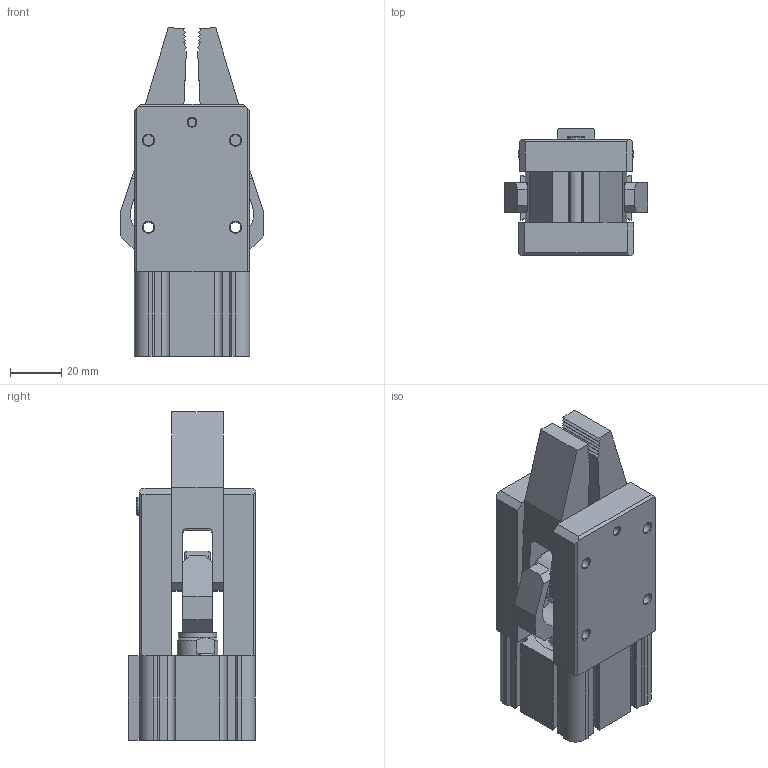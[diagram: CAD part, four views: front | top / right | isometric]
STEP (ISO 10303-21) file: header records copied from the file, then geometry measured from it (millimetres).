
FILE_DESCRIPTION(/* description */ ('Gripper With Jaws '),/* implementation_level */ '2;1');
FILE_NAME(/* name */ 'GS-32.STEP',/* time_stamp */ '2026-02-10T14:43:21-05:00',/* author */ ('Design2'),/* organization */ ('CCS Design LLC'),/* preprocessor_version */ 'ST-DEVELOPER v20',/* originating_system */ 'Autodesk Inventor 2025',/* authorisation */ '');
FILE_SCHEMA (('AUTOMOTIVE_DESIGN { 1 0 10303 214 3 1 1 }'));
Products named in the file (19): GS-32; CYL-32-10; M-CYL-32-10-B; M-CYL-32-10-S; M-CYL-32-C; M-GS-32-BP; M-GS-32-F; M-GS-32-TP; M-GS-32-J-S; ASME B18.21.2M - 8; ANSI B18.3.6M - M8x1.25 x 20; ISO 8734 - 8 x 35 - A; ASME B18.21.2M - 4; ANSI B18.3.1M - M4x0.7 x 40; Aluminum Spacer 6mm x 20mm; ASME B18.21.2M - 5; ANSI B18.3.1M - M5x0.8 x 40; ISO 8752 - 6 x 18  A; ANSI/AFBMA 16.1 - 6 x 19 x 12
Assembly tree (28 placements, depth 3):
  GS-32
    CYL-32-10
      M-CYL-32-10-B
      M-CYL-32-10-S
      M-CYL-32-C
    M-GS-32-BP
    M-GS-32-F
    M-GS-32-J-S  x2
    M-GS-32-TP
    ASME B18.21.2M - 8
    ANSI B18.3.6M - M8x1.25 x 20
    ISO 8734 - 8 x 35 - A  x2
    ASME B18.21.2M - 4
    ANSI B18.3.1M - M4x0.7 x 40
    Aluminum Spacer 6mm x 20mm
    ASME B18.21.2M - 5  x4
    ANSI B18.3.1M - M5x0.8 x 40  x4
    ISO 8752 - 6 x 18  A  x2
    ANSI/AFBMA 16.1 - 6 x 19 x 12  x2
Bounding box: 56 x 49.7 x 128.31 mm (x, y, z)
Volume: 150552.2 mm3; surface area: 76704.5 mm2
Topology: 58 solids, 58 shells, 627 faces, 1547 edges, 1017 vertices
Faces by surface type: plane 307, cylinder 145, torus 75, cone 68, sphere 32
Full cylindrical faces by diameter (mm): 2 x2, 2.5 x2, 3.242 x1, 4 x2, 4.04 x1, 4.134 x12, 4.5 x1, 5 x4, 5.5 x4, 6 x7, 6.647 x1, 6.655 x1, 7 x1, 8 x10, 8.5 x4, 9 x12, 9.7 x2, 10.4 x6, 14.6 x6, 16 x5, 16.1 x1, 16.25 x2, 19 x2, 21 x2, 32 x2, 33 x1, 34 x3, 35.7 x1
Entity records: 14728 total; most frequent: DIRECTION 2565, CARTESIAN_POINT 2504, ORIENTED_EDGE 2218, EDGE_CURVE 1109, AXIS2_PLACEMENT_3D 977, VERTEX_POINT 790, LINE 611, VECTOR 611
